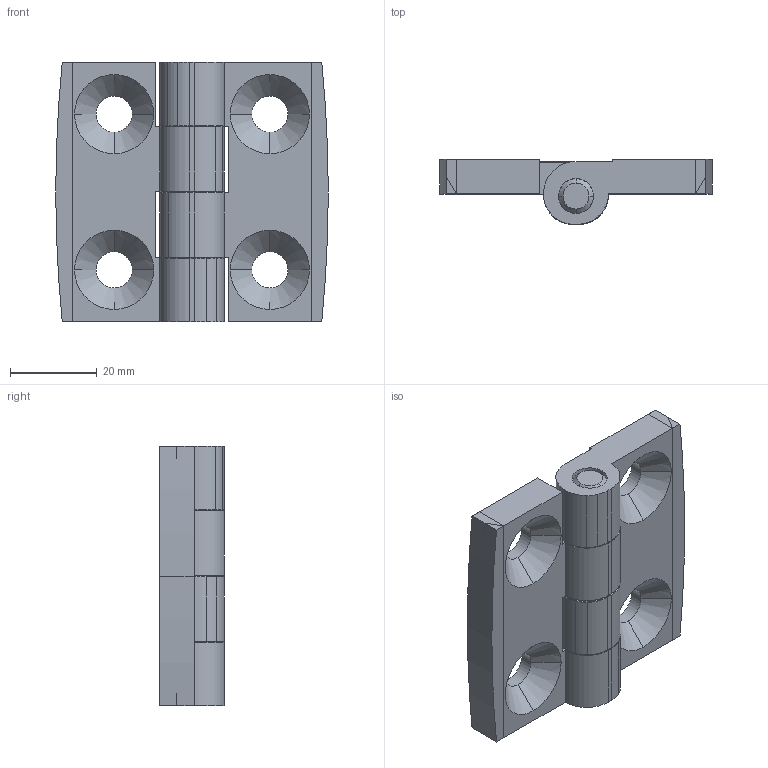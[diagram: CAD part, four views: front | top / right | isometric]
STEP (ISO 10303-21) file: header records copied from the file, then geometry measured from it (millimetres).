
FILE_DESCRIPTION((''),'2;1');
FILE_NAME('6530.01.stp','2015-07-17T10:50:43',(''),(''),'Mechanical Desktop 2006','Mechanical Desktop 2006',', , ');
FILE_SCHEMA(('CONFIG_CONTROL_DESIGN'));
Length unit declared in the file: millimetre
Products named in the file (5): 54-1-3513; 1056-U13_ASM; 1056-06; 1056-07-03; TEIL3
Assembly tree (6 placements, depth 3):
  54-1-3513
    1056-U13_ASM
      1056-06  x2
      1056-07-03
    TEIL3  x2
Bounding box: 63 x 15 x 60 mm (x, y, z)
Volume: 27460.9 mm3; surface area: 18525.1 mm2
Topology: 5 solids, 5 shells, 574 faces, 1328 edges, 770 vertices
Faces by surface type: plane 382, cylinder 124, cone 60, bspline 8
Entity records: 13223 total; most frequent: DIRECTION 2416, CARTESIAN_POINT 2258, ORIENTED_EDGE 2158, EDGE_CURVE 1079, AXIS2_PLACEMENT_3D 869, VECTOR 678, LINE 678, VERTEX_POINT 613
